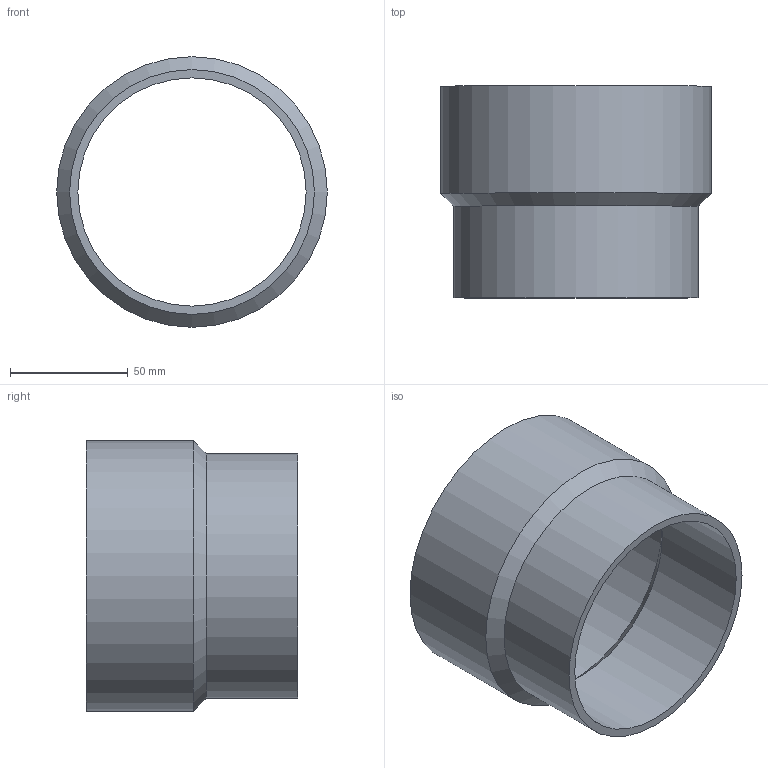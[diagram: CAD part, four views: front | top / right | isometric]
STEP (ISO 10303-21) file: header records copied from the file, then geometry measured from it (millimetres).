
FILE_DESCRIPTION(/* description */ (''),/* implementation_level */ '2;1');
FILE_NAME(/* name */ 'P:\Adapter\Schweißstutzen und Schweißadapter\A 104a_108i.stp',/* time_stamp */ '2019-04-01T13:25:44+02:00',/* author */ ('neufeld'),/* organization */ (''),/* preprocessor_version */ 'ST-DEVELOPER v17',/* originating_system */ 'Autodesk Inventor 2019',/* authorisation */ '');
FILE_SCHEMA (('AUTOMOTIVE_DESIGN { 1 0 10303 214 3 1 1 }'));
Length unit declared in the file: millimetre
Products named in the file (1): A 104a_108i
Bounding box: 115 x 90 x 115 mm (x, y, z)
Volume: 112723.7 mm3; surface area: 63837.6 mm2
Topology: 1 solids, 1 shells, 8 faces, 22 edges, 16 vertices
Faces by surface type: cylinder 4, cone 2, plane 2
Full cylindrical faces by diameter (mm): 97 x1, 104 x1, 108.3 x1, 115 x1
Entity records: 317 total; most frequent: DIRECTION 56, CARTESIAN_POINT 47, ORIENTED_EDGE 44, AXIS2_PLACEMENT_3D 25, EDGE_CURVE 22, CIRCLE 16, VERTEX_POINT 16, EDGE_LOOP 10
